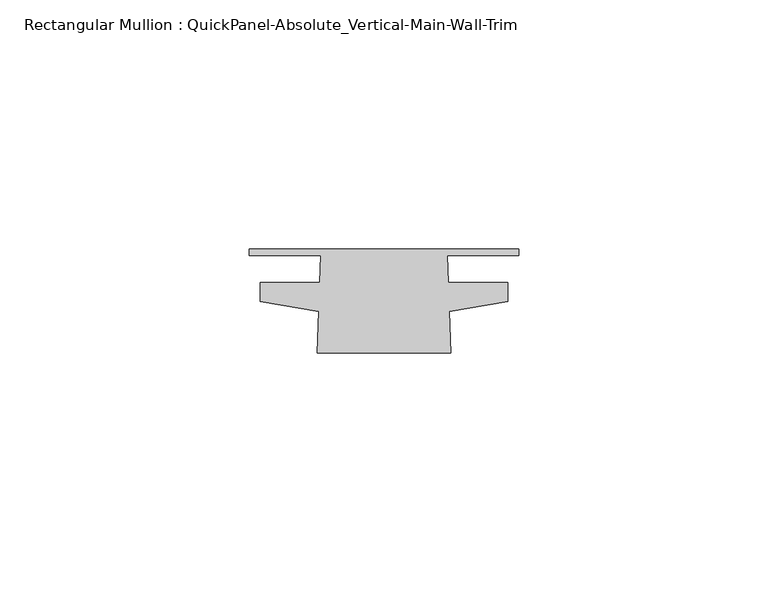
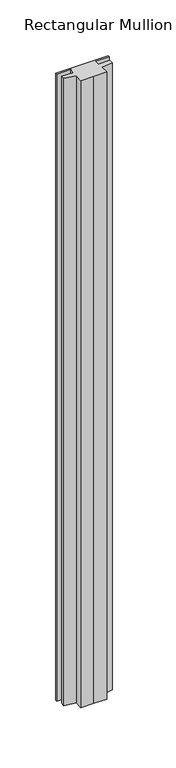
"""IFC4 building model written with IfcOpenShell, lengths in millimetres: member geometry, Rectangular Mullion : QuickPanel-Absolute_Vertical-Main-Wall-Trim."""

from ifc_helpers import new_model, si_unit, frame, origin, place, context, project, spatial, polyline, outline, extrude, source, transform, mapped, element, save


def rectangular_mullion_quickpanel_absolute_vertical_main_wall_8224364b(model_context):
    return source(origin(), model_context, "Body", "SweptSolid", [
        extrude(outline(polyline([(0.0, -8.6293878), (-13.4106833, -8.6293878), (-13.1217462, -0.3553138), (-24.8306239, 1.6519631), (-24.8306239, 5.4833303), (-12.9178563, 5.4833303), (-12.7283398, 10.9103727), (-26.9910864, 10.9103727), (-26.9910864, 12.1803727), (26.9910864, 12.1803727), (26.9910864, 10.9103727), (12.7283398, 10.9103727), (12.9178563, 5.4833303), (24.8306239, 5.4833303), (24.8306239, 1.6519631), (13.1217462, -0.3553138), (13.4106833, -8.6293878), (0.0, -8.6293878)])), frame((0.0, 0.0, -683.7359501), z_axis=(0.0, 0.0, 1.0), x_axis=(1.0, 0.0, 0.0)), (0.0, 0.0, 1.0), 683.7359501),
    ])


if __name__ == "__main__":
    model = new_model("IFC4")
    model_context = context("Model", 3, world=origin())
    ifc_project = project(units=[si_unit("LENGTHUNIT", "METRE", prefix="MILLI")], contexts=[model_context])
    site = spatial("IfcSite", under=ifc_project)
    building = spatial("IfcBuilding", under=site)
    placement = place(None, origin())
    rectangular_mullion_quickpanel_absolute_vertical_main_wall_shape = rectangular_mullion_quickpanel_absolute_vertical_main_wall_8224364b(model_context)
    element("IfcMember", 1, ObjectType="Rectangular Mullion : QuickPanel-Absolute_Vertical-Main-Wall-Trim", at=placement, inside=building, context=model_context, shape_type="MappedRepresentation", body=[
        mapped(rectangular_mullion_quickpanel_absolute_vertical_main_wall_shape, transform((0.0, 0.0, 0.0), x_axis=(1.0, 0.0, 0.0), y_axis=(0.0, 1.0, 0.0), z_axis=(0.0, 0.0, 1.0))),
    ])
    save(model, "model.ifc")
